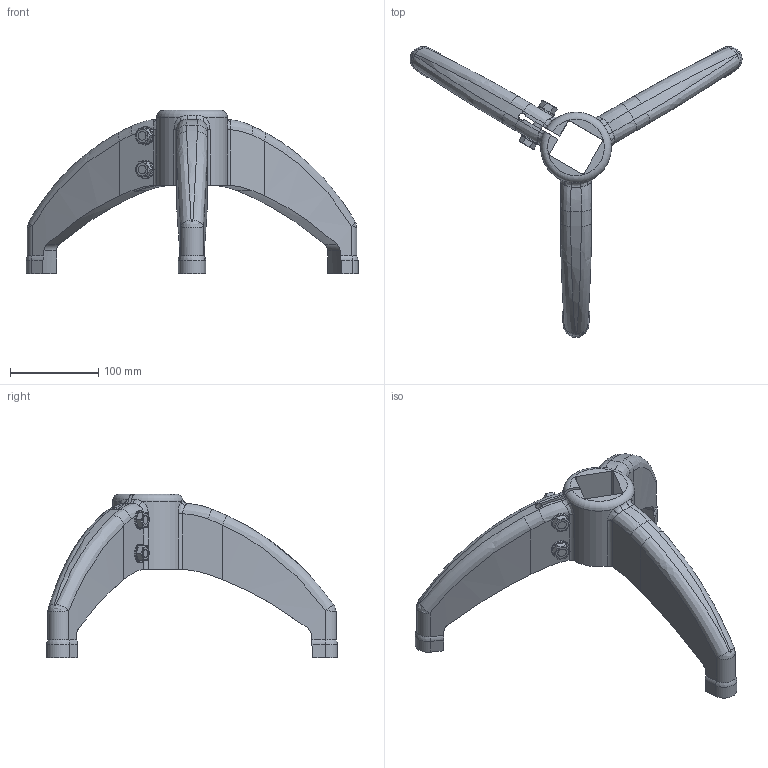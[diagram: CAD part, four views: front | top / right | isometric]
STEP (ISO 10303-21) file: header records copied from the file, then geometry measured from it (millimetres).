
FILE_DESCRIPTION(/* description */ ('Base di sostegno a 3 braccia tubo quadro 45x45'),/* implementation_level */ '2;1');
FILE_NAME(/* name */ 'C:\Users\Stefan.Nesic\Desktop\01010 STEP da zippare\BSS4545.stp',/* time_stamp */ '2022-06-17T12:14:21+02:00',/* author */ ('Daniele'),/* organization */ (''),/* preprocessor_version */ 'ST-DEVELOPER v18.1',/* originating_system */ 'Autodesk Inventor 2021',/* authorisation */ '');
FILE_SCHEMA (('AUTOMOTIVE_DESIGN { 1 0 10303 214 3 1 1 }'));
Length unit declared in the file: millimetre
Products named in the file (1): BSS4545
Bounding box: 375.38 x 328.96 x 185 mm (x, y, z)
Volume: 1400896.7 mm3; surface area: 170393.8 mm2
Topology: 9 solids, 9 shells, 191 faces, 468 edges, 291 vertices
Faces by surface type: plane 56, bspline 52, cylinder 47, torus 24, cone 12
Full cylindrical faces by diameter (mm): 10 x4, 10.5 x4, 13.835 x3, 21 x4
Entity records: 11470 total; most frequent: CARTESIAN_POINT 7112, ORIENTED_EDGE 930, DIRECTION 754, EDGE_CURVE 465, AXIS2_PLACEMENT_3D 319, VERTEX_POINT 291, EDGE_LOOP 204, STYLED_ITEM 200
